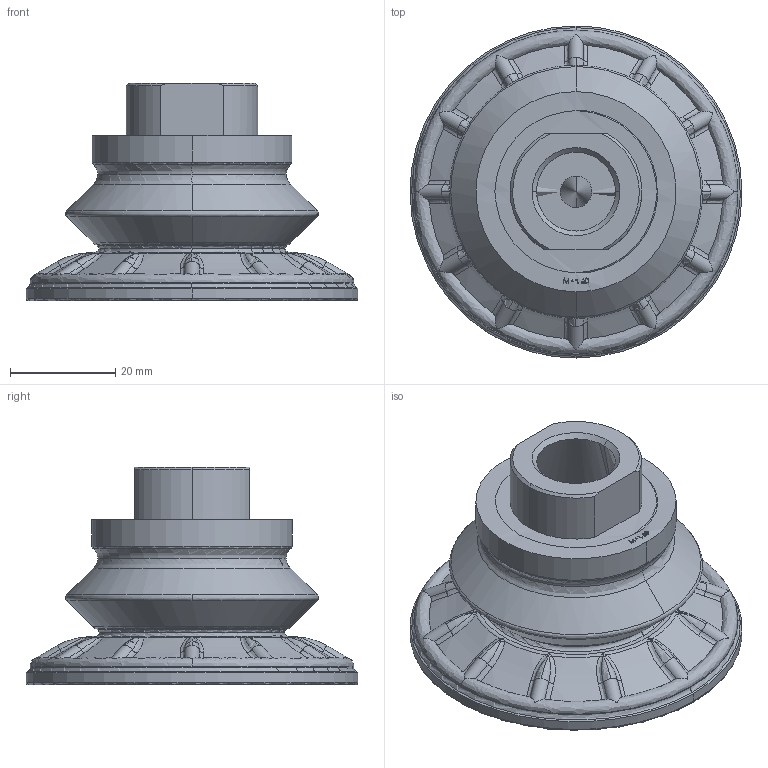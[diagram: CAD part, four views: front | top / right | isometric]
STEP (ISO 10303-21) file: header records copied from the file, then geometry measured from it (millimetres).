
FILE_DESCRIPTION (( 'STEP AP203' ), '1' );
FILE_NAME ('ZSAB60N-F03.STEP', '2022-03-31T14:27:58', ( '' ), ( '' ), 'SwSTEP 2.0', 'SolidWorks 2019', '' );
FILE_SCHEMA (( 'CONFIG_CONTROL_DESIGN' ));
Length unit declared in the file: millimetre
Products named in the file (1): ZSAB60N-F03
Bounding box: 62.99 x 63 x 41.31 mm (x, y, z)
Surface area: 13191.5 mm2 (no closed solid volume)
Topology: 0 solids, 6 shells, 197 faces, 496 edges, 312 vertices
Faces by surface type: bspline 70, torus 44, plane 33, cone 27, cylinder 23
Entity records: 13220 total; most frequent: CARTESIAN_POINT 9794, ORIENTED_EDGE 973, EDGE_CURVE 496, B_SPLINE_CURVE_WITH_KNOTS 446, VERTEX_POINT 312, DIRECTION 250, EDGE_LOOP 208, FACE_OUTER_BOUND 194
